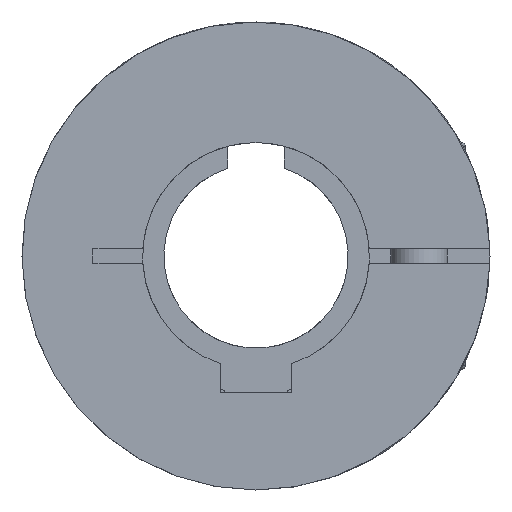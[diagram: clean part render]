
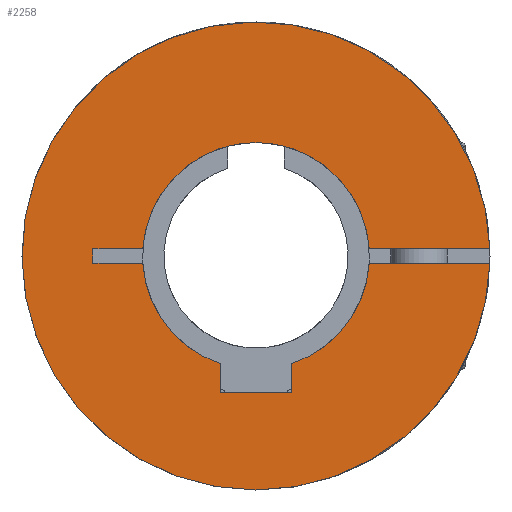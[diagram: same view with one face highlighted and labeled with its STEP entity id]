
A CAD part, left-side view. The second image highlights one B-rep face of the part: STEP entity #2258.
In plain terms, the highlighted planar face has unit normal (-1, 0, 0).
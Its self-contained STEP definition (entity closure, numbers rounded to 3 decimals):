
#98=PLANE('',#2630);
#287=FACE_OUTER_BOUND('',#431,.T.);
#431=EDGE_LOOP('',(#1949,#1950,#1951,#1952,#1953,#1954,#1955,#1956,#1957,
#1958,#1959,#1960,#1961));
#582=LINE('',#4298,#705);
#585=LINE('',#4304,#708);
#586=LINE('',#4306,#709);
#588=LINE('',#4309,#711);
#590=LINE('',#4313,#713);
#593=LINE('',#4319,#716);
#594=LINE('',#4320,#717);
#595=LINE('',#4321,#718);
#705=VECTOR('',#3281,1.);
#708=VECTOR('',#3286,1.);
#709=VECTOR('',#3289,1.);
#711=VECTOR('',#3293,27.069);
#713=VECTOR('',#3297,17.084);
#716=VECTOR('',#3302,17.084);
#717=VECTOR('',#3303,2.);
#718=VECTOR('',#3304,27.069);
#893=CIRCLE('',#2604,33.);
#895=CIRCLE('',#2606,33.);
#904=CIRCLE('',#2619,16.);
#906=CIRCLE('',#2621,16.);
#907=CIRCLE('',#2623,16.);
#1104=VERTEX_POINT('',#4192);
#1105=VERTEX_POINT('',#4193);
#1107=VERTEX_POINT('',#4198);
#1120=VERTEX_POINT('',#4271);
#1121=VERTEX_POINT('',#4273);
#1124=VERTEX_POINT('',#4279);
#1125=VERTEX_POINT('',#4281);
#1126=VERTEX_POINT('',#4285);
#1127=VERTEX_POINT('',#4286);
#1131=VERTEX_POINT('',#4296);
#1133=VERTEX_POINT('',#4302);
#1134=VERTEX_POINT('',#4312);
#1136=VERTEX_POINT('',#4318);
#1402=EDGE_CURVE('',#1104,#1105,#893,.T.);
#1405=EDGE_CURVE('',#1105,#1107,#895,.T.);
#1422=EDGE_CURVE('',#1121,#1120,#904,.T.);
#1426=EDGE_CURVE('',#1125,#1124,#906,.T.);
#1428=EDGE_CURVE('',#1126,#1127,#907,.T.);
#1434=EDGE_CURVE('',#1124,#1131,#582,.T.);
#1437=EDGE_CURVE('',#1131,#1133,#585,.T.);
#1438=EDGE_CURVE('',#1133,#1121,#586,.T.);
#1440=EDGE_CURVE('',#1104,#1125,#588,.T.);
#1442=EDGE_CURVE('',#1134,#1126,#590,.T.);
#1445=EDGE_CURVE('',#1136,#1120,#593,.T.);
#1446=EDGE_CURVE('',#1134,#1136,#594,.T.);
#1447=EDGE_CURVE('',#1127,#1107,#595,.T.);
#1949=ORIENTED_EDGE('',*,*,#1426,.T.);
#1950=ORIENTED_EDGE('',*,*,#1434,.T.);
#1951=ORIENTED_EDGE('',*,*,#1437,.T.);
#1952=ORIENTED_EDGE('',*,*,#1438,.T.);
#1953=ORIENTED_EDGE('',*,*,#1422,.T.);
#1954=ORIENTED_EDGE('',*,*,#1445,.F.);
#1955=ORIENTED_EDGE('',*,*,#1446,.F.);
#1956=ORIENTED_EDGE('',*,*,#1442,.T.);
#1957=ORIENTED_EDGE('',*,*,#1428,.T.);
#1958=ORIENTED_EDGE('',*,*,#1447,.T.);
#1959=ORIENTED_EDGE('',*,*,#1405,.F.);
#1960=ORIENTED_EDGE('',*,*,#1402,.F.);
#1961=ORIENTED_EDGE('',*,*,#1440,.T.);
#2258=ADVANCED_FACE('',(#287),#98,.T.);
#2604=AXIS2_PLACEMENT_3D('',#4194,#3223,#3224);
#2606=AXIS2_PLACEMENT_3D('',#4199,#3228,#3229);
#2619=AXIS2_PLACEMENT_3D('',#4274,#3260,#3261);
#2621=AXIS2_PLACEMENT_3D('',#4282,#3266,#3267);
#2623=AXIS2_PLACEMENT_3D('',#4287,#3271,#3272);
#2630=AXIS2_PLACEMENT_3D('',#4317,#3300,#3301);
#3223=DIRECTION('center_axis',(1.,0.,0.));
#3224=DIRECTION('ref_axis',(0.,0.,1.));
#3228=DIRECTION('center_axis',(1.,0.,0.));
#3229=DIRECTION('ref_axis',(0.,0.,1.));
#3260=DIRECTION('center_axis',(1.,0.,0.));
#3261=DIRECTION('ref_axis',(0.,0.,-1.));
#3266=DIRECTION('center_axis',(1.,0.,0.));
#3267=DIRECTION('ref_axis',(0.,0.,-1.));
#3271=DIRECTION('center_axis',(1.,0.,0.));
#3272=DIRECTION('ref_axis',(0.,0.,-1.));
#3281=DIRECTION('',(0.,0.,-1.));
#3286=DIRECTION('',(0.,1.,0.));
#3289=DIRECTION('',(0.,0.,1.));
#3293=DIRECTION('',(0.,1.,0.));
#3297=DIRECTION('',(0.,-1.,0.));
#3300=DIRECTION('center_axis',(-1.,0.,0.));
#3301=DIRECTION('ref_axis',(0.,-1.,0.));
#3302=DIRECTION('',(0.,-1.,0.));
#3303=DIRECTION('',(0.,0.,-1.));
#3304=DIRECTION('',(0.,-1.,0.));
#4192=CARTESIAN_POINT('',(0.,-32.985,-1.));
#4193=CARTESIAN_POINT('',(0.,0.,-33.));
#4194=CARTESIAN_POINT('Origin',(0.,0.,0.));
#4198=CARTESIAN_POINT('',(0.,-32.985,1.));
#4199=CARTESIAN_POINT('Origin',(0.,0.,0.));
#4271=CARTESIAN_POINT('',(0.,15.969,-1.));
#4273=CARTESIAN_POINT('',(0.,5.,-15.199));
#4274=CARTESIAN_POINT('Origin',(0.,0.,0.));
#4279=CARTESIAN_POINT('',(0.,-5.,-15.199));
#4281=CARTESIAN_POINT('',(0.,-15.969,-1.));
#4282=CARTESIAN_POINT('Origin',(0.,0.,0.));
#4285=CARTESIAN_POINT('',(0.,15.969,1.));
#4286=CARTESIAN_POINT('',(0.,-15.969,1.));
#4287=CARTESIAN_POINT('Origin',(0.,0.,0.));
#4296=CARTESIAN_POINT('',(0.,-5.,-19.3));
#4298=CARTESIAN_POINT('',(0.,-5.,-4.825));
#4302=CARTESIAN_POINT('',(0.,5.,-19.3));
#4304=CARTESIAN_POINT('',(0.,0.,-19.3));
#4306=CARTESIAN_POINT('',(0.,5.,-4.825));
#4309=CARTESIAN_POINT('',(0.,-32.985,-1.));
#4312=CARTESIAN_POINT('',(0.,23.,1.));
#4313=CARTESIAN_POINT('',(0.,23.,1.));
#4317=CARTESIAN_POINT('Origin',(0.,0.,0.));
#4318=CARTESIAN_POINT('',(0.,23.,-1.));
#4319=CARTESIAN_POINT('',(0.,23.,-1.));
#4320=CARTESIAN_POINT('',(0.,23.,1.));
#4321=CARTESIAN_POINT('',(0.,-5.916,1.));
